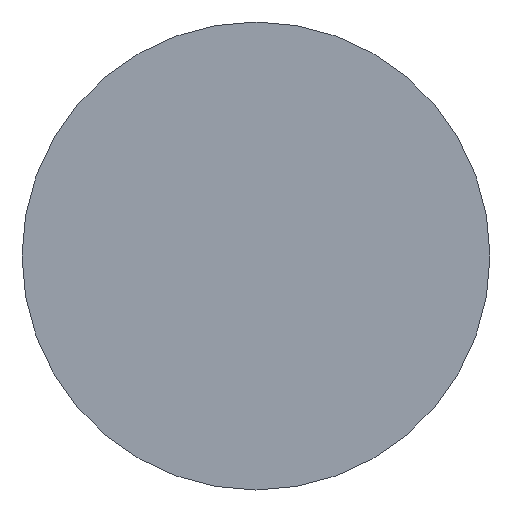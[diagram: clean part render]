
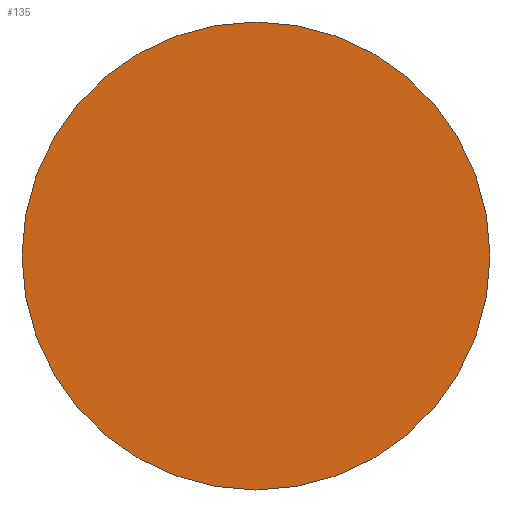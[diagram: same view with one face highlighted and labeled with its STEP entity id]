
A CAD part, left-side view. The second image highlights one B-rep face of the part: STEP entity #135.
In plain terms, the highlighted planar face has unit normal (-1, 0, 0).
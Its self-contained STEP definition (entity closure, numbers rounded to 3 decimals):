
#12 = EDGE_LOOP ( 'NONE', ( #25, #39 ) ) ;
#18 = CIRCLE ( 'NONE', #125, 5.5 ) ;
#25 = ORIENTED_EDGE ( 'NONE', *, *, #116, .T. ) ;
#26 = FACE_OUTER_BOUND ( 'NONE', #12, .T. ) ;
#39 = ORIENTED_EDGE ( 'NONE', *, *, #121, .T. ) ;
#47 = CIRCLE ( 'NONE', #124, 5.5 ) ;
#57 = VERTEX_POINT ( 'NONE', #94 ) ;
#66 = CARTESIAN_POINT ( 'NONE',  ( -557.5, 0., 0. ) ) ;
#67 = DIRECTION ( 'NONE',  ( -1., 0., 0. ) ) ;
#68 = DIRECTION ( 'NONE',  ( 0., 0., 1. ) ) ;
#72 = PLANE ( 'NONE',  #127 ) ;
#76 = DIRECTION ( 'NONE',  ( -1., 0., 0. ) ) ;
#77 = DIRECTION ( 'NONE',  ( 0., 0., 1. ) ) ;
#85 = DIRECTION ( 'NONE',  ( 0., 0., 1. ) ) ;
#87 = DIRECTION ( 'NONE',  ( -1., 0., 0. ) ) ;
#92 = CARTESIAN_POINT ( 'NONE',  ( -557.5, 0., 5.5 ) ) ;
#93 = CARTESIAN_POINT ( 'NONE',  ( -557.5, 0., 0. ) ) ;
#94 = CARTESIAN_POINT ( 'NONE',  ( -557.5, 0., -5.5 ) ) ;
#102 = VERTEX_POINT ( 'NONE', #92 ) ;
#105 = CARTESIAN_POINT ( 'NONE',  ( -557.5, 0., 0. ) ) ;
#116 = EDGE_CURVE ( 'NONE', #102, #57, #18, .T. ) ;
#121 = EDGE_CURVE ( 'NONE', #57, #102, #47, .T. ) ;
#124 = AXIS2_PLACEMENT_3D ( 'NONE', #93, #67, #68 ) ;
#125 = AXIS2_PLACEMENT_3D ( 'NONE', #105, #87, #85 ) ;
#127 = AXIS2_PLACEMENT_3D ( 'NONE', #66, #76, #77 ) ;
#135 = ADVANCED_FACE ( 'NONE', ( #26 ), #72, .T. ) ;
